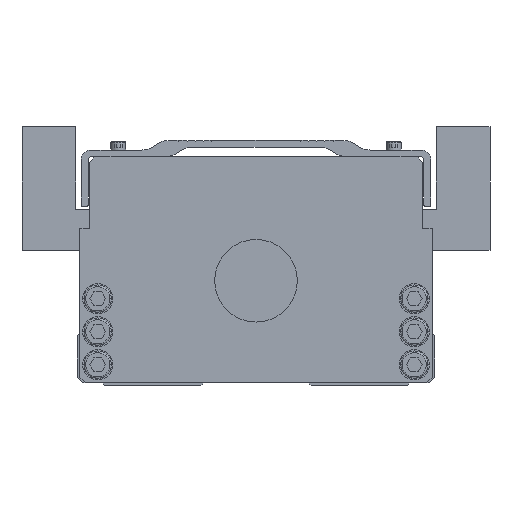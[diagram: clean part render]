
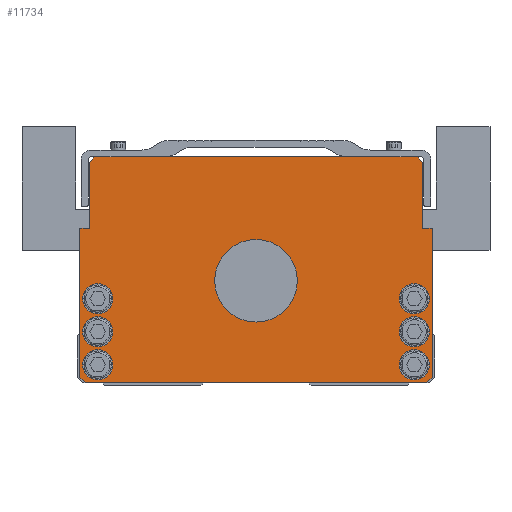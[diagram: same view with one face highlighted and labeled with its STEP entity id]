
A CAD part, front view. The second image highlights one B-rep face of the part: STEP entity #11734.
In plain terms, the highlighted planar face has unit normal (0, -1, 0).
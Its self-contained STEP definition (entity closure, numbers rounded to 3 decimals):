
#4976=EDGE_CURVE('',#7428,#14026,#14693,.T.);
#5178=EDGE_CURVE('',#13106,#14410,#14925,.T.);
#5360=VERTEX_POINT('',#15125);
#5380=VERTEX_POINT('',#15150);
#5732=EDGE_CURVE('',#5380,#7050,#15541,.T.);
#5764=VERTEX_POINT('',#15579);
#5938=EDGE_CURVE('',#7760,#13932,#15785,.T.);
#6406=VERTEX_POINT('',#16302);
#6492=EDGE_CURVE('',#8498,#7228,#16399,.T.);
#6634=EDGE_CURVE('',#11202,#11866,#16554,.T.);
#7050=VERTEX_POINT('',#17010);
#7172=VERTEX_POINT('',#17147);
#7228=VERTEX_POINT('',#17208);
#7278=VERTEX_POINT('',#17263);
#7428=VERTEX_POINT('',#17439);
#7494=EDGE_CURVE('',#13512,#7428,#17510,.T.);
#7616=EDGE_CURVE('',#12028,#13512,#17649,.T.);
#7760=VERTEX_POINT('',#17814);
#7852=EDGE_CURVE('',#7228,#5360,#17915,.T.);
#7900=VERTEX_POINT('',#17970);
#7986=EDGE_CURVE('',#14042,#5764,#18066,.T.);
#8498=VERTEX_POINT('',#18640);
#8520=VERTEX_POINT('',#18663);
#8586=EDGE_CURVE('',#11866,#11202,#18737,.T.);
#8778=EDGE_CURVE('',#9264,#11304,#18952,.T.);
#9170=VERTEX_POINT('',#19388);
#9264=VERTEX_POINT('',#19492);
#9460=EDGE_CURVE('',#6406,#7172,#19702,.T.);
#9600=EDGE_CURVE('',#9170,#10394,#19857,.T.);
#9934=EDGE_CURVE('',#7172,#6406,#20228,.T.);
#10394=VERTEX_POINT('',#20745);
#10480=VERTEX_POINT('',#20842);
#10528=EDGE_CURVE('',#7278,#12028,#20892,.T.);
#10536=EDGE_CURVE('',#14410,#10598,#20901,.T.);
#10598=VERTEX_POINT('',#20977);
#11202=VERTEX_POINT('',#21654);
#11292=EDGE_CURVE('',#5360,#7278,#21753,.T.);
#11304=VERTEX_POINT('',#21765);
#11680=EDGE_CURVE('',#5764,#14042,#22172,.T.);
#11734=ADVANCED_FACE('',(#22230,#22231,#22232,#22233,#22234,#22235,#22236,#22237),#22238,.T.);
#11866=VERTEX_POINT('',#22392);
#12028=VERTEX_POINT('',#22571);
#12528=EDGE_CURVE('',#14026,#7900,#23117,.T.);
#13106=VERTEX_POINT('',#23759);
#13340=EDGE_CURVE('',#10598,#8498,#24017,.T.);
#13372=EDGE_CURVE('',#13932,#7760,#24053,.T.);
#13474=EDGE_CURVE('',#11304,#9264,#24167,.T.);
#13490=EDGE_CURVE('',#7050,#5380,#24186,.T.);
#13512=VERTEX_POINT('',#24209);
#13520=EDGE_CURVE('',#10394,#13106,#24218,.T.);
#13552=EDGE_CURVE('',#8520,#10480,#24251,.T.);
#13560=EDGE_CURVE('',#7900,#9170,#24259,.T.);
#13830=EDGE_CURVE('',#10480,#8520,#24561,.T.);
#13932=VERTEX_POINT('',#24668);
#14026=VERTEX_POINT('',#24770);
#14042=VERTEX_POINT('',#24787);
#14410=VERTEX_POINT('',#25204);
#14693=LINE('',#25548,#25549);
#14925=LINE('',#25874,#25875);
#15125=CARTESIAN_POINT('',(58.5,0.0,83.0));
#15150=CARTESIAN_POINT('',(63.0,0.0,31.5));
#15541=CIRCLE('',#26695,5.5);
#15579=CARTESIAN_POINT('',(63.0,0.0,7.5));
#15785=CIRCLE('',#27023,5.5);
#16302=CARTESIAN_POINT('',(63.0,0.0,19.5));
#16399=LINE('',#27927,#27928);
#16554=CIRCLE('',#28145,5.5);
#17010=CARTESIAN_POINT('',(52.0,0.0,31.5));
#17147=CARTESIAN_POINT('',(52.0,0.0,19.5));
#17208=CARTESIAN_POINT('',(33.25,0.0,83.0));
#17263=CARTESIAN_POINT('',(60.5,0.0,81.0));
#17439=CARTESIAN_POINT('',(64.0,0.0,3.0));
#17510=LINE('',#29445,#29446);
#17649=LINE('',#29629,#29630);
#17814=CARTESIAN_POINT('',(-63.0,0.0,31.5));
#17915=LINE('',#29977,#29978);
#17970=CARTESIAN_POINT('',(-62.0,0.0,1.0));
#18066=CIRCLE('',#30173,5.5);
#18640=CARTESIAN_POINT('',(-33.25,0.0,83.0));
#18663=CARTESIAN_POINT('',(-52.0,0.0,7.5));
#18737=CIRCLE('',#31052,5.5);
#18952=CIRCLE('',#31339,15.0);
#19388=CARTESIAN_POINT('',(-64.0,0.0,3.0));
#19492=CARTESIAN_POINT('',(15.0,0.0,38.0));
#19702=CIRCLE('',#32383,5.5);
#19857=LINE('',#32594,#32595);
#20228=CIRCLE('',#33102,5.5);
#20745=CARTESIAN_POINT('',(-64.0,0.0,57.0));
#20842=CARTESIAN_POINT('',(-63.0,0.0,7.5));
#20892=LINE('',#34018,#34019);
#20901=LINE('',#34031,#34032);
#20977=CARTESIAN_POINT('',(-58.5,0.0,83.0));
#21654=CARTESIAN_POINT('',(-63.0,0.0,19.5));
#21753=LINE('',#35220,#35221);
#21765=CARTESIAN_POINT('',(-15.0,0.0,38.0));
#22172=CIRCLE('',#35826,5.5);
#22230=FACE_BOUND('',#35907,.T.);
#22231=FACE_BOUND('',#35908,.T.);
#22232=FACE_BOUND('',#35909,.T.);
#22233=FACE_BOUND('',#35910,.T.);
#22234=FACE_BOUND('',#35911,.T.);
#22235=FACE_BOUND('',#35912,.T.);
#22236=FACE_BOUND('',#35913,.T.);
#22237=FACE_OUTER_BOUND('',#35914,.T.);
#22238=PLANE('',#35915);
#22392=CARTESIAN_POINT('',(-52.0,0.0,19.5));
#22571=CARTESIAN_POINT('',(60.5,0.0,57.0));
#23117=LINE('',#37118,#37119);
#23759=CARTESIAN_POINT('',(-60.5,0.0,57.0));
#24017=LINE('',#38368,#38369);
#24053=CIRCLE('',#38416,5.5);
#24167=CIRCLE('',#38573,15.0);
#24186=CIRCLE('',#38598,5.5);
#24209=CARTESIAN_POINT('',(64.0,0.0,57.0));
#24218=LINE('',#38641,#38642);
#24251=CIRCLE('',#38688,5.5);
#24259=LINE('',#38701,#38702);
#24561=CIRCLE('',#39121,5.5);
#24668=CARTESIAN_POINT('',(-52.0,0.0,31.5));
#24770=CARTESIAN_POINT('',(62.0,0.0,1.0));
#24787=CARTESIAN_POINT('',(52.0,0.0,7.5));
#25204=CARTESIAN_POINT('',(-60.5,0.0,81.0));
#25548=CARTESIAN_POINT('',(62.0,0.0,1.0));
#25549=VECTOR('',#40323,1.);
#25874=CARTESIAN_POINT('',(-60.5,0.0,81.0));
#25875=VECTOR('',#40606,1.0);
#26695=AXIS2_PLACEMENT_3D('',#41310,#41311,#41312);
#27023=AXIS2_PLACEMENT_3D('',#41669,#41670,#41671);
#27927=CARTESIAN_POINT('',(58.5,0.0,83.0));
#27928=VECTOR('',#42430,1.0);
#28145=AXIS2_PLACEMENT_3D('',#42616,#42617,#42618);
#29445=CARTESIAN_POINT('',(64.0,0.0,3.0));
#29446=VECTOR('',#43686,1.0);
#29629=CARTESIAN_POINT('',(64.0,0.0,57.0));
#29630=VECTOR('',#43865,1.0);
#29977=CARTESIAN_POINT('',(58.5,0.0,83.0));
#29978=VECTOR('',#44164,1.0);
#30173=AXIS2_PLACEMENT_3D('',#44348,#44349,#44350);
#31052=AXIS2_PLACEMENT_3D('',#45102,#45103,#45104);
#31339=AXIS2_PLACEMENT_3D('',#45391,#45392,#45393);
#32383=AXIS2_PLACEMENT_3D('',#46182,#46183,#46184);
#32594=CARTESIAN_POINT('',(-64.0,0.0,57.0));
#32595=VECTOR('',#46371,1.0);
#33102=AXIS2_PLACEMENT_3D('',#46788,#46789,#46790);
#34018=CARTESIAN_POINT('',(60.5,0.0,57.0));
#34019=VECTOR('',#47522,1.0);
#34031=CARTESIAN_POINT('',(-58.5,0.0,83.0));
#34032=VECTOR('',#47537,1.);
#35220=CARTESIAN_POINT('',(60.5,0.0,81.0));
#35221=VECTOR('',#48537,1.);
#35826=AXIS2_PLACEMENT_3D('',#48958,#48959,#48960);
#35907=EDGE_LOOP('',(#49017,#49018));
#35908=EDGE_LOOP('',(#49019,#49020));
#35909=EDGE_LOOP('',(#49021,#49022));
#35910=EDGE_LOOP('',(#49023,#49024));
#35911=EDGE_LOOP('',(#49025,#49026));
#35912=EDGE_LOOP('',(#49027,#49028));
#35913=EDGE_LOOP('',(#49029,#49030));
#35914=EDGE_LOOP('',(#49031,#49032,#49033,#49034,#49035,#49036,#49037,#49038,#49039,#49040,#49041,#49042,#49043,#49044));
#35915=AXIS2_PLACEMENT_3D('',#49045,#49046,#49047);
#37118=CARTESIAN_POINT('',(-62.0,0.0,1.0));
#37119=VECTOR('',#50097,1.0);
#38368=CARTESIAN_POINT('',(58.5,0.0,83.0));
#38369=VECTOR('',#51150,1.0);
#38416=AXIS2_PLACEMENT_3D('',#51189,#51190,#51191);
#38573=AXIS2_PLACEMENT_3D('',#51300,#51301,#51302);
#38598=AXIS2_PLACEMENT_3D('',#51332,#51333,#51334);
#38641=CARTESIAN_POINT('',(-60.5,0.0,57.0));
#38642=VECTOR('',#51372,1.0);
#38688=AXIS2_PLACEMENT_3D('',#51397,#51398,#51399);
#38701=CARTESIAN_POINT('',(-64.0,0.0,3.0));
#38702=VECTOR('',#51407,1.);
#39121=AXIS2_PLACEMENT_3D('',#51748,#51749,#51750);
#40323=DIRECTION('',(-0.707,0.0,-0.707));
#40606=DIRECTION('',(0.0,0.0,1.0));
#41310=CARTESIAN_POINT('',(57.5,0.0,31.5));
#41311=DIRECTION('',(-0.0,1.0,0.0));
#41312=DIRECTION('',(1.0,0.0,0.0));
#41669=CARTESIAN_POINT('',(-57.5,0.0,31.5));
#41670=DIRECTION('',(-0.0,1.0,0.0));
#41671=DIRECTION('',(1.0,0.0,0.0));
#42430=DIRECTION('',(1.0,0.0,0.0));
#42616=CARTESIAN_POINT('',(-57.5,0.0,19.5));
#42617=DIRECTION('',(-0.0,1.0,0.0));
#42618=DIRECTION('',(1.0,0.0,0.0));
#43686=DIRECTION('',(-0.0,0.0,-1.0));
#43865=DIRECTION('',(1.0,0.0,0.0));
#44164=DIRECTION('',(1.0,0.0,0.0));
#44348=CARTESIAN_POINT('',(57.5,0.0,7.5));
#44349=DIRECTION('',(-0.0,1.0,0.0));
#44350=DIRECTION('',(1.0,0.0,0.0));
#45102=CARTESIAN_POINT('',(-57.5,0.0,19.5));
#45103=DIRECTION('',(-0.0,1.0,0.0));
#45104=DIRECTION('',(1.0,0.0,0.0));
#45391=CARTESIAN_POINT('',(0.0,0.0,38.0));
#45392=DIRECTION('',(-0.0,1.0,0.0));
#45393=DIRECTION('',(1.0,0.0,0.0));
#46182=CARTESIAN_POINT('',(57.5,0.0,19.5));
#46183=DIRECTION('',(-0.0,1.0,0.0));
#46184=DIRECTION('',(1.0,0.0,0.0));
#46371=DIRECTION('',(0.0,0.0,1.0));
#46788=CARTESIAN_POINT('',(57.5,0.0,19.5));
#46789=DIRECTION('',(-0.0,1.0,0.0));
#46790=DIRECTION('',(1.0,0.0,0.0));
#47522=DIRECTION('',(-0.0,0.0,-1.0));
#47537=DIRECTION('',(0.707,0.0,0.707));
#48537=DIRECTION('',(0.707,0.0,-0.707));
#48958=CARTESIAN_POINT('',(57.5,0.0,7.5));
#48959=DIRECTION('',(-0.0,1.0,0.0));
#48960=DIRECTION('',(1.0,0.0,0.0));
#49017=ORIENTED_EDGE('',*,*,#8778,.T.);
#49018=ORIENTED_EDGE('',*,*,#13474,.T.);
#49019=ORIENTED_EDGE('',*,*,#5732,.T.);
#49020=ORIENTED_EDGE('',*,*,#13490,.T.);
#49021=ORIENTED_EDGE('',*,*,#9460,.T.);
#49022=ORIENTED_EDGE('',*,*,#9934,.T.);
#49023=ORIENTED_EDGE('',*,*,#11680,.T.);
#49024=ORIENTED_EDGE('',*,*,#7986,.T.);
#49025=ORIENTED_EDGE('',*,*,#13372,.T.);
#49026=ORIENTED_EDGE('',*,*,#5938,.T.);
#49027=ORIENTED_EDGE('',*,*,#8586,.T.);
#49028=ORIENTED_EDGE('',*,*,#6634,.T.);
#49029=ORIENTED_EDGE('',*,*,#13552,.T.);
#49030=ORIENTED_EDGE('',*,*,#13830,.T.);
#49031=ORIENTED_EDGE('',*,*,#13560,.F.);
#49032=ORIENTED_EDGE('',*,*,#12528,.F.);
#49033=ORIENTED_EDGE('',*,*,#4976,.F.);
#49034=ORIENTED_EDGE('',*,*,#7494,.F.);
#49035=ORIENTED_EDGE('',*,*,#7616,.F.);
#49036=ORIENTED_EDGE('',*,*,#10528,.F.);
#49037=ORIENTED_EDGE('',*,*,#11292,.F.);
#49038=ORIENTED_EDGE('',*,*,#7852,.F.);
#49039=ORIENTED_EDGE('',*,*,#6492,.F.);
#49040=ORIENTED_EDGE('',*,*,#13340,.F.);
#49041=ORIENTED_EDGE('',*,*,#10536,.F.);
#49042=ORIENTED_EDGE('',*,*,#5178,.F.);
#49043=ORIENTED_EDGE('',*,*,#13520,.F.);
#49044=ORIENTED_EDGE('',*,*,#9600,.F.);
#49045=CARTESIAN_POINT('',(0.,0.0,41.562));
#49046=DIRECTION('',(0.0,-1.0,0.0));
#49047=DIRECTION('',(1.0,0.0,0.0));
#50097=DIRECTION('',(-1.0,0.0,-0.0));
#51150=DIRECTION('',(1.0,0.0,0.0));
#51189=CARTESIAN_POINT('',(-57.5,0.0,31.5));
#51190=DIRECTION('',(-0.0,1.0,0.0));
#51191=DIRECTION('',(1.0,0.0,0.0));
#51300=CARTESIAN_POINT('',(0.0,0.0,38.0));
#51301=DIRECTION('',(-0.0,1.0,0.0));
#51302=DIRECTION('',(1.0,0.0,0.0));
#51332=CARTESIAN_POINT('',(57.5,0.0,31.5));
#51333=DIRECTION('',(-0.0,1.0,0.0));
#51334=DIRECTION('',(1.0,0.0,0.0));
#51372=DIRECTION('',(1.0,0.0,0.0));
#51397=CARTESIAN_POINT('',(-57.5,0.0,7.5));
#51398=DIRECTION('',(-0.0,1.0,0.0));
#51399=DIRECTION('',(1.0,0.0,0.0));
#51407=DIRECTION('',(-0.707,0.0,0.707));
#51748=CARTESIAN_POINT('',(-57.5,0.0,7.5));
#51749=DIRECTION('',(-0.0,1.0,0.0));
#51750=DIRECTION('',(1.0,0.0,0.0));
